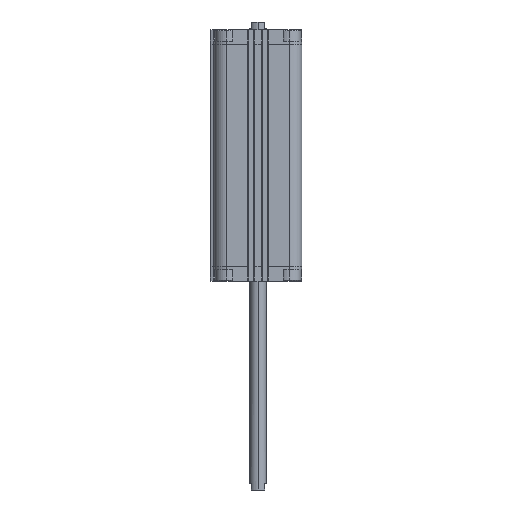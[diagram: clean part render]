
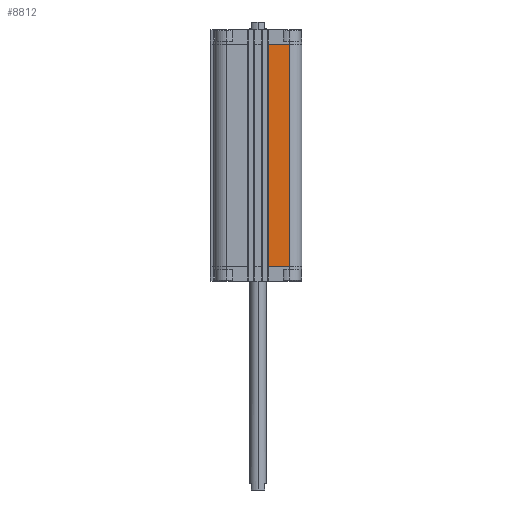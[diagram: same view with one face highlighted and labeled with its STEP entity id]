
A CAD part, left-side view. The second image highlights one B-rep face of the part: STEP entity #8812.
In plain terms, the highlighted planar face has unit normal (-1, 0, 0).
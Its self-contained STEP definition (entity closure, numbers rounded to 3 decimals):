
#1991 = EDGE_CURVE ( 'NONE', #11565, #12867, #17632, .T. ) ;
#2376 = CARTESIAN_POINT ( 'NONE',  ( -43.5, -31., -235.5 ) ) ;
#2595 = CARTESIAN_POINT ( 'NONE',  ( -43.5, -10.05, -14.5 ) ) ;
#2790 = LINE ( 'NONE', #14897, #4490 ) ;
#2839 = ORIENTED_EDGE ( 'NONE', *, *, #1991, .T. ) ;
#3288 = EDGE_CURVE ( 'NONE', #3997, #18641, #9369, .T. ) ;
#3997 = VERTEX_POINT ( 'NONE', #8437 ) ;
#4063 = CARTESIAN_POINT ( 'NONE',  ( -43.5, -31., -235.5 ) ) ;
#4490 = VECTOR ( 'NONE', #18155, 1000. ) ;
#4567 = VECTOR ( 'NONE', #8519, 1000. ) ;
#4965 = ORIENTED_EDGE ( 'NONE', *, *, #3288, .F. ) ;
#6087 = DIRECTION ( 'NONE',  ( 0., 0., 1. ) ) ;
#7264 = FACE_OUTER_BOUND ( 'NONE', #14692, .T. ) ;
#7771 = EDGE_CURVE ( 'NONE', #3997, #11565, #2790, .T. ) ;
#8437 = CARTESIAN_POINT ( 'NONE',  ( -43.5, -10.05, -235.5 ) ) ;
#8519 = DIRECTION ( 'NONE',  ( 0., 0., 1. ) ) ;
#8659 = DIRECTION ( 'NONE',  ( 0., -1., 0. ) ) ;
#8812 = ADVANCED_FACE ( 'NONE', ( #7264 ), #17770, .T. ) ;
#9369 = LINE ( 'NONE', #12452, #10408 ) ;
#9897 = AXIS2_PLACEMENT_3D ( 'NONE', #19069, #11751, #8659 ) ;
#10335 = CARTESIAN_POINT ( 'NONE',  ( -43.5, -31., -14.5 ) ) ;
#10408 = VECTOR ( 'NONE', #6087, 1000. ) ;
#11132 = VECTOR ( 'NONE', #13118, 1000. ) ;
#11550 = LINE ( 'NONE', #2595, #11132 ) ;
#11565 = VERTEX_POINT ( 'NONE', #4063 ) ;
#11751 = DIRECTION ( 'NONE',  ( -1., 0., 0. ) ) ;
#12452 = CARTESIAN_POINT ( 'NONE',  ( -43.5, -10.05, -235.5 ) ) ;
#12867 = VERTEX_POINT ( 'NONE', #10335 ) ;
#13118 = DIRECTION ( 'NONE',  ( 0., -1., 0. ) ) ;
#14596 = ORIENTED_EDGE ( 'NONE', *, *, #7771, .T. ) ;
#14692 = EDGE_LOOP ( 'NONE', ( #19205, #4965, #14596, #2839 ) ) ;
#14897 = CARTESIAN_POINT ( 'NONE',  ( -43.5, -10.05, -235.5 ) ) ;
#15150 = EDGE_CURVE ( 'NONE', #18641, #12867, #11550, .T. ) ;
#17632 = LINE ( 'NONE', #2376, #4567 ) ;
#17770 = PLANE ( 'NONE',  #9897 ) ;
#18049 = CARTESIAN_POINT ( 'NONE',  ( -43.5, -10.05, -14.5 ) ) ;
#18155 = DIRECTION ( 'NONE',  ( 0., -1., 0. ) ) ;
#18641 = VERTEX_POINT ( 'NONE', #18049 ) ;
#19069 = CARTESIAN_POINT ( 'NONE',  ( -43.5, -10.05, -235.5 ) ) ;
#19205 = ORIENTED_EDGE ( 'NONE', *, *, #15150, .F. ) ;
